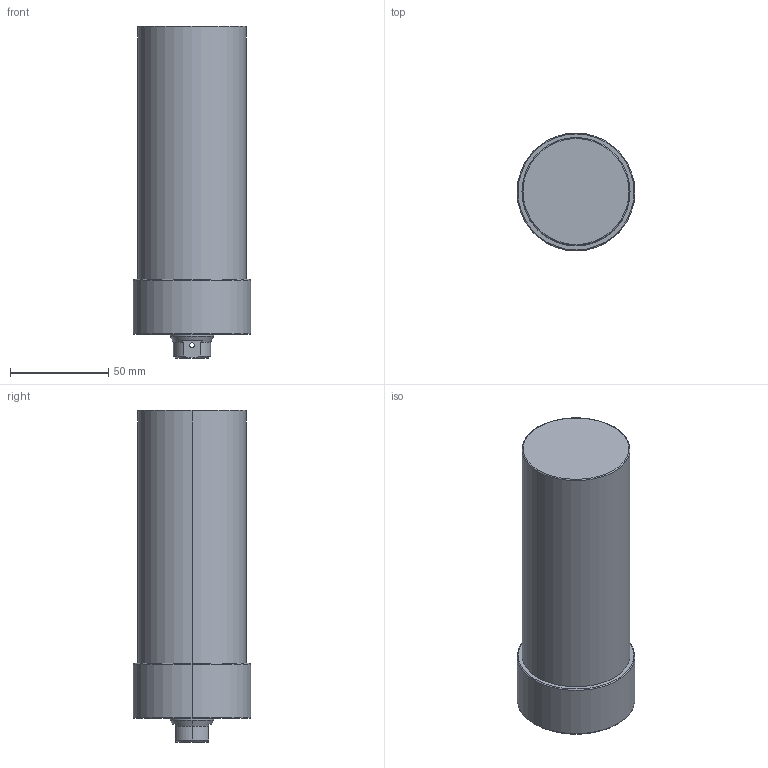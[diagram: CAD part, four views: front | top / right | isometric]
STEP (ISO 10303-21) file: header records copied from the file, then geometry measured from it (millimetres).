
FILE_DESCRIPTION (( 'STEP AP203' ), '1' );
FILE_NAME ('CLLU055-CB-0100.STEP', '2017-05-15T08:13:46', ( '' ), ( '' ), 'SwSTEP 2.0', 'SolidWorks 2015', '' );
FILE_SCHEMA (( 'CONFIG_CONTROL_DESIGN' ));
Length unit declared in the file: millimetre
Products named in the file (1): CLLU055-CB-0100
Bounding box: 60 x 60 x 169 mm (x, y, z)
Volume: 385940.8 mm3; surface area: 35660.7 mm2
Topology: 1 solids, 1 shells, 68 faces, 155 edges, 88 vertices
Faces by surface type: cylinder 27, cone 25, plane 10, torus 6
Entity records: 2021 total; most frequent: CARTESIAN_POINT 422, DIRECTION 350, ORIENTED_EDGE 290, AXIS2_PLACEMENT_3D 148, EDGE_CURVE 145, VERTEX_POINT 88, EDGE_LOOP 81, CIRCLE 79
